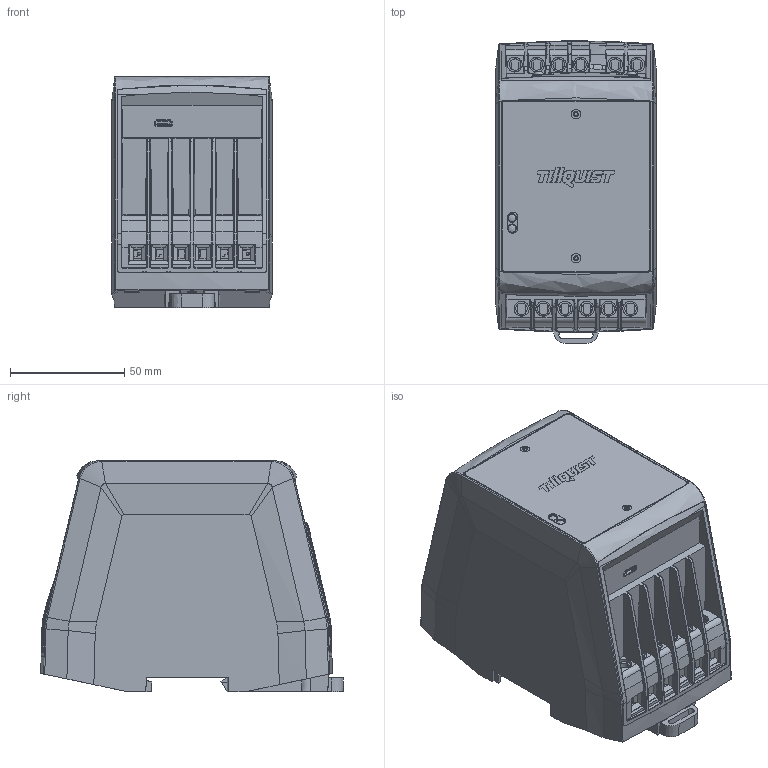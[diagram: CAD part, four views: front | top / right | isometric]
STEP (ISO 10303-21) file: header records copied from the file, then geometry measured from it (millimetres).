
FILE_DESCRIPTION (( 'STEP AP214' ), '1' );
FILE_NAME ('LQT40_F.STEP', '2023-08-31T05:45:50', ( '' ), ( '' ), 'SwSTEP 2.0', 'SolidWorks 2023', '' );
FILE_SCHEMA (( 'AUTOMOTIVE_DESIGN' ));
Length unit declared in the file: millimetre
Products named in the file (12): LQT40_F; STP39A0180050; Etikett1_Front; 01.02.0008; ABCC 2xRJ45 with housing_17sep2021; LFB_litepipe_3mm_15_9mm; 01.02.0010; 01.02.0015; 01.02.0013; 01.02.0009; LQT40_Anybus_R2B1_LQT40_Anybus_3D Model; LQT40_Mainboard_R3A1_Step_Model
Assembly tree (15 placements, depth 2):
  LQT40_F
    01.02.0008
    01.02.0010
    01.02.0013
    01.02.0015
    01.02.0009
    LFB_litepipe_3mm_15_9mm  x2
    ABCC 2xRJ45 with housing_17sep2021
    STP39A0180050  x4
    LQT40_Mainboard_R3A1_Step_Model
    LQT40_Anybus_R2B1_LQT40_Anybus_3D Model
    Etikett1_Front
Bounding box: 70 x 132.3 x 101.1 mm (x, y, z)
Volume: 97550.2 mm3; surface area: 167820.8 mm2
Topology: 21 solids, 145 shells, 4984 faces, 18473 edges, 13189 vertices
Faces by surface type: plane 2906, bspline 1327, cylinder 559, cone 159, torus 31, sphere 2
Full cylindrical faces by diameter (mm): 0.558 x50, 1.331 x4, 1.837 x4, 2 x4, 2.84 x2, 3 x2, 3.3 x2, 3.5 x2, 3.6 x4, 4.81 x1, 5 x12, 5.5 x2
Entity records: 267375 total; most frequent: CARTESIAN_POINT 104459, ORIENTED_EDGE 29169, DIRECTION 20047, EDGE_CURVE 17729, VERTEX_POINT 12827, VECTOR 9631, LINE 9631, B_SPLINE_CURVE_WITH_KNOTS 6272
